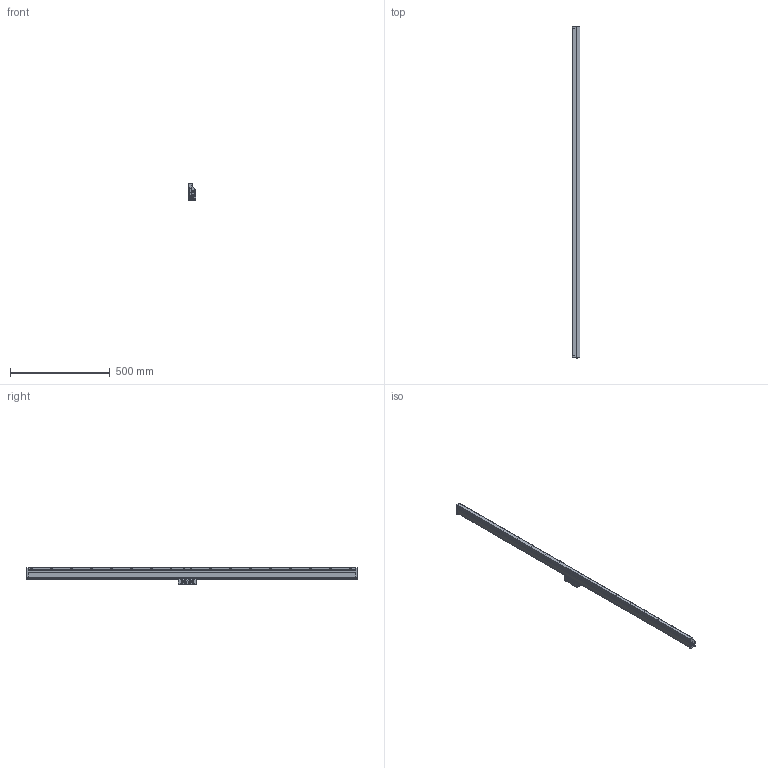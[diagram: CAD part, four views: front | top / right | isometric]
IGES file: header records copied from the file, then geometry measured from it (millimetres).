
Start section: Elysium IGES Interface
Global section: file name: 82HK:\20_商品設計\設計１課\個人\宮澤\郷間さん\AT1153\3D\NEW_ﾌｧｲﾙ\IGES\AT1153-1540.igs; native system: Creo Elements/Direct Modeling 18.1B  29-Sep-2012; preprocessor: Creo Element/Direct IGES_3D V2.2; author: Unknown; organization: Unknown; date: 20181012.114603; units: millimetre
Bounding box: 37 x 1668.31 x 85 mm (x, y, z)
Volume: 2616745.2 mm3; surface area: 377913.2 mm2
Topology: 2 solids, 2 shells, 3106 faces, 8304 edges, 5380 vertices
Faces by surface type: bspline 3106
